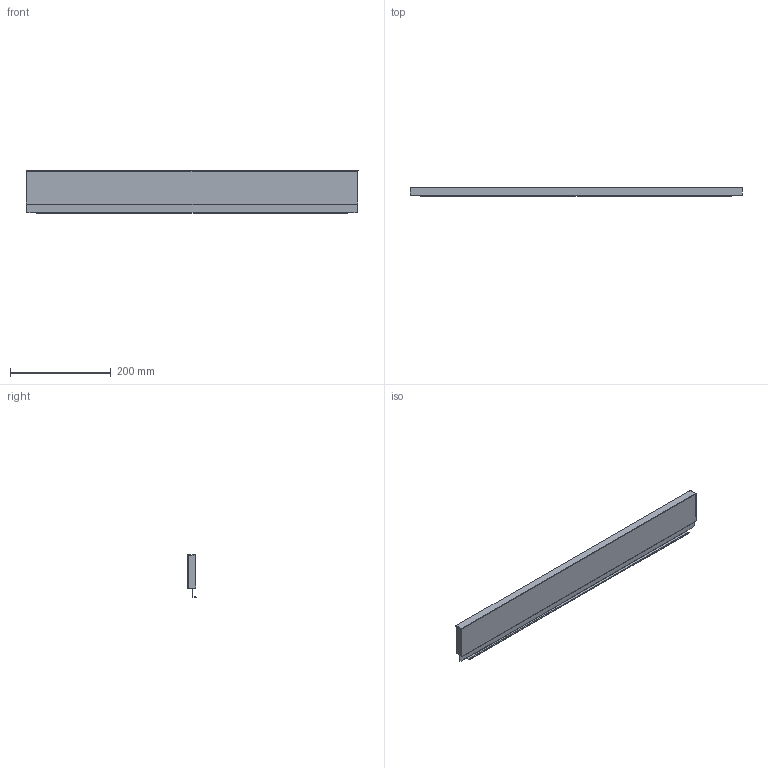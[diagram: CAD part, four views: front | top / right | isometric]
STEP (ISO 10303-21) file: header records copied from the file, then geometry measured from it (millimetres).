
FILE_DESCRIPTION (( 'STEP AP214' ), '1' );
FILE_NAME ('_STRW_H90_KAB_750.step', '2010-08-24T14:40:16', ( 'grass' ), ( '' ), 'SwSTEP 2.0', 'SolidWorks 2009', '' );
FILE_SCHEMA (( 'AUTOMOTIVE_DESIGN' ));
Length unit declared in the file: millimetre
Products named in the file (1): _STRW_H90_KAB_750
Bounding box: 660 x 17 x 85.14 mm (x, y, z)
Volume: 60922.1 mm3; surface area: 153619.1 mm2
Topology: 1 solids, 1 shells, 76 faces, 214 edges, 140 vertices
Faces by surface type: plane 54, cylinder 22
Entity records: 2472 total; most frequent: CARTESIAN_POINT 431, ORIENTED_EDGE 428, DIRECTION 412, EDGE_CURVE 214, LINE 170, VECTOR 170, VERTEX_POINT 140, AXIS2_PLACEMENT_3D 121
